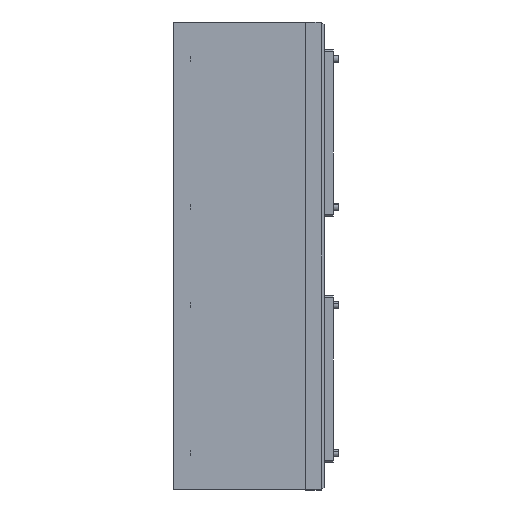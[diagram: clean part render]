
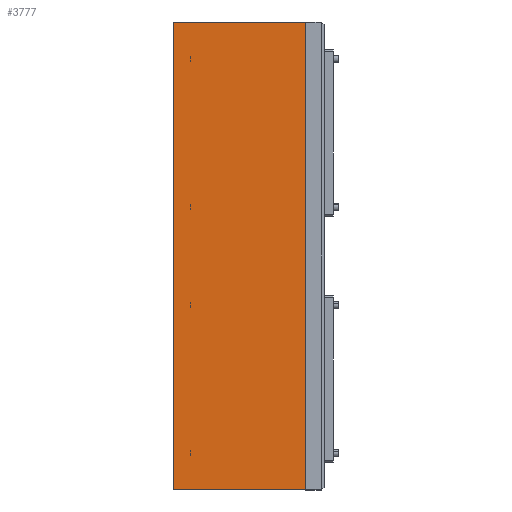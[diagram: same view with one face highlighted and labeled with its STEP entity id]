
A CAD part, left-side view. The second image highlights one B-rep face of the part: STEP entity #3777.
In plain terms, the highlighted planar face has unit normal (-1, 0, 0).
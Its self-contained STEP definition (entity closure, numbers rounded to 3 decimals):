
#114 = VERTEX_POINT ( 'NONE', #3994 ) ;
#314 = VERTEX_POINT ( 'NONE', #3942 ) ;
#423 = CARTESIAN_POINT ( 'NONE',  ( -5., 81.5, -126.25 ) ) ;
#482 = VECTOR ( 'NONE', #3032, 1000. ) ;
#527 = CARTESIAN_POINT ( 'NONE',  ( -5., 81.5, -126.25 ) ) ;
#595 = VECTOR ( 'NONE', #1135, 1000. ) ;
#626 = PLANE ( 'NONE',  #1643 ) ;
#945 = VECTOR ( 'NONE', #1471, 1000. ) ;
#1006 = ORIENTED_EDGE ( 'NONE', *, *, #2714, .T. ) ;
#1115 = LINE ( 'NONE', #3325, #3409 ) ;
#1135 = DIRECTION ( 'NONE',  ( 0., 0., 1. ) ) ;
#1252 = VERTEX_POINT ( 'NONE', #423 ) ;
#1299 = EDGE_LOOP ( 'NONE', ( #1409, #3484, #1626, #1006 ) ) ;
#1409 = ORIENTED_EDGE ( 'NONE', *, *, #3999, .T. ) ;
#1471 = DIRECTION ( 'NONE',  ( 0., 0., 1. ) ) ;
#1626 = ORIENTED_EDGE ( 'NONE', *, *, #4074, .F. ) ;
#1643 = AXIS2_PLACEMENT_3D ( 'NONE', #2914, #2593, #3845 ) ;
#1976 = LINE ( 'NONE', #3940, #945 ) ;
#2068 = DIRECTION ( 'NONE',  ( 0., -1., 0. ) ) ;
#2593 = DIRECTION ( 'NONE',  ( 1., 0., 0. ) ) ;
#2714 = EDGE_CURVE ( 'NONE', #1252, #114, #1115, .T. ) ;
#2805 = LINE ( 'NONE', #2993, #482 ) ;
#2914 = CARTESIAN_POINT ( 'NONE',  ( -5., 81.5, -126.25 ) ) ;
#2993 = CARTESIAN_POINT ( 'NONE',  ( -5., 81.5, 126.25 ) ) ;
#3032 = DIRECTION ( 'NONE',  ( 0., -1., 0. ) ) ;
#3148 = FACE_OUTER_BOUND ( 'NONE', #1299, .T. ) ;
#3276 = LINE ( 'NONE', #527, #595 ) ;
#3325 = CARTESIAN_POINT ( 'NONE',  ( -5., 81.5, -126.25 ) ) ;
#3409 = VECTOR ( 'NONE', #2068, 1000. ) ;
#3484 = ORIENTED_EDGE ( 'NONE', *, *, #4021, .F. ) ;
#3524 = VERTEX_POINT ( 'NONE', #3630 ) ;
#3630 = CARTESIAN_POINT ( 'NONE',  ( -5., 81.5, 126.25 ) ) ;
#3777 = ADVANCED_FACE ( 'NONE', ( #3148 ), #626, .F. ) ;
#3845 = DIRECTION ( 'NONE',  ( 0., 0., -1. ) ) ;
#3940 = CARTESIAN_POINT ( 'NONE',  ( -5., 10., -126.25 ) ) ;
#3942 = CARTESIAN_POINT ( 'NONE',  ( -5., 10., 126.25 ) ) ;
#3994 = CARTESIAN_POINT ( 'NONE',  ( -5., 10., -126.25 ) ) ;
#3999 = EDGE_CURVE ( 'NONE', #114, #314, #1976, .T. ) ;
#4021 = EDGE_CURVE ( 'NONE', #3524, #314, #2805, .T. ) ;
#4074 = EDGE_CURVE ( 'NONE', #1252, #3524, #3276, .T. ) ;
